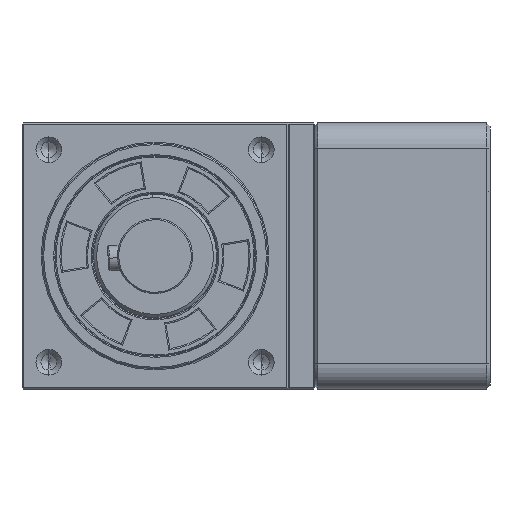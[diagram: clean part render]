
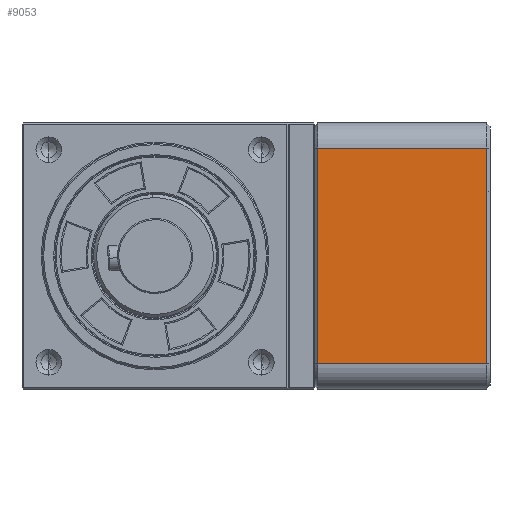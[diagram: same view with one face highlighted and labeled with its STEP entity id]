
A CAD part, left-side view. The second image highlights one B-rep face of the part: STEP entity #9053.
In plain terms, the highlighted planar face has unit normal (-1, 0, 0) as drawn and (0, 0, -1) by its records, which use the part's own axes.
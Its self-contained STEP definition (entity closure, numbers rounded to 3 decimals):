
#222 = ORIENTED_EDGE ( 'NONE', *, *, #2540, .T. ) ;
#1320 = VERTEX_POINT ( 'NONE', #34788 ) ;
#1750 = FACE_OUTER_BOUND ( 'NONE', #17868, .T. ) ;
#1820 = CARTESIAN_POINT ( 'NONE',  ( -17.25, 28., -21.25 ) ) ;
#2540 = EDGE_CURVE ( 'NONE', #21910, #12571, #32081, .T. ) ;
#5518 = AXIS2_PLACEMENT_3D ( 'NONE', #36191, #27778, #5638 ) ;
#5638 = DIRECTION ( 'NONE',  ( 1., 0., 0. ) ) ;
#6923 = EDGE_CURVE ( 'NONE', #23568, #21910, #16893, .T. ) ;
#9053 = ADVANCED_FACE ( 'NONE', ( #1750 ), #30632, .F. ) ;
#9152 = DIRECTION ( 'NONE',  ( 1., 0., 0. ) ) ;
#9223 = VECTOR ( 'NONE', #23376, 1000. ) ;
#9389 = CARTESIAN_POINT ( 'NONE',  ( 17.25, 27.5, -21.25 ) ) ;
#10713 = CARTESIAN_POINT ( 'NONE',  ( 17.25, 27.5, -21.25 ) ) ;
#12571 = VERTEX_POINT ( 'NONE', #21439 ) ;
#13118 = VECTOR ( 'NONE', #9152, 1000. ) ;
#13192 = CARTESIAN_POINT ( 'NONE',  ( 17.25, 0.5, -21.25 ) ) ;
#15265 = DIRECTION ( 'NONE',  ( 0., -1., 0. ) ) ;
#15435 = LINE ( 'NONE', #9389, #13118 ) ;
#16021 = VECTOR ( 'NONE', #15265, 1000. ) ;
#16893 = LINE ( 'NONE', #29626, #16021 ) ;
#17868 = EDGE_LOOP ( 'NONE', ( #23281, #222, #18349, #22947 ) ) ;
#18349 = ORIENTED_EDGE ( 'NONE', *, *, #27205, .T. ) ;
#21439 = CARTESIAN_POINT ( 'NONE',  ( -17.25, 0.5, -21.25 ) ) ;
#21910 = VERTEX_POINT ( 'NONE', #13192 ) ;
#22947 = ORIENTED_EDGE ( 'NONE', *, *, #29636, .T. ) ;
#23281 = ORIENTED_EDGE ( 'NONE', *, *, #6923, .T. ) ;
#23376 = DIRECTION ( 'NONE',  ( -1., 0., 0. ) ) ;
#23568 = VERTEX_POINT ( 'NONE', #10713 ) ;
#23582 = LINE ( 'NONE', #1820, #27518 ) ;
#26194 = CARTESIAN_POINT ( 'NONE',  ( 21.25, 0.5, -21.25 ) ) ;
#26941 = DIRECTION ( 'NONE',  ( 0., 1., 0. ) ) ;
#27205 = EDGE_CURVE ( 'NONE', #12571, #1320, #23582, .T. ) ;
#27518 = VECTOR ( 'NONE', #26941, 1000. ) ;
#27778 = DIRECTION ( 'NONE',  ( 0., 0., 1. ) ) ;
#29626 = CARTESIAN_POINT ( 'NONE',  ( 17.25, 28., -21.25 ) ) ;
#29636 = EDGE_CURVE ( 'NONE', #1320, #23568, #15435, .T. ) ;
#30632 = PLANE ( 'NONE',  #5518 ) ;
#32081 = LINE ( 'NONE', #26194, #9223 ) ;
#34788 = CARTESIAN_POINT ( 'NONE',  ( -17.25, 27.5, -21.25 ) ) ;
#36191 = CARTESIAN_POINT ( 'NONE',  ( 21.25, 28., -21.25 ) ) ;
